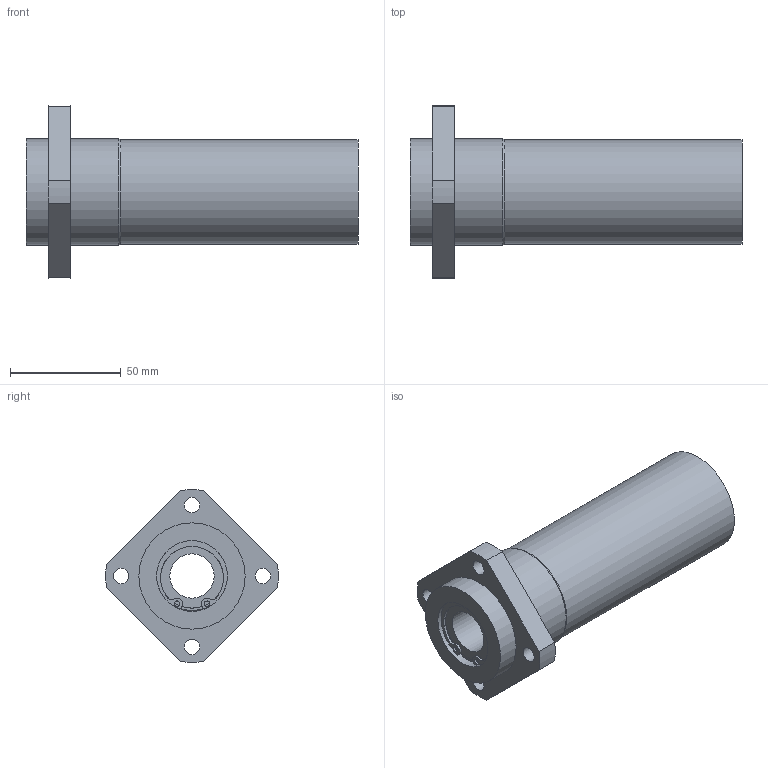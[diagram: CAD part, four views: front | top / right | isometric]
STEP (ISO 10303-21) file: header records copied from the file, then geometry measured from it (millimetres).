
FILE_DESCRIPTION((''),'2;1');
FILE_NAME('C:\Documents and Settings\土屋\My Documents\土屋移動用フォルダ\製品 (図面)\カタログ用3D\変換ファイル\OZAK_3D-CAD(STEP形式)\Part1.-Linear Bearings_ﾘﾆｱﾍﾞｱﾘﾝｸﾞ\09_Maintenance Free_ﾒｲﾝﾃﾅﾝｽﾌﾘｰ\L2017-09-22T13:59:10','2017-09-22T13:59:10',('y'),(''),'Autodesk Inventor 11','Autodesk Inventor 11','');
FILE_SCHEMA(('AUTOMOTIVE_DESIGN { 1 0 10303 214 1 1 1 1 }'));
Length unit declared in the file: millimetre
Products named in the file (1): LFWLB20AMF
Bounding box: 150 x 77.92 x 77.92 mm (x, y, z)
Volume: 230662.4 mm3; surface area: 44608.4 mm2
Topology: 1 solids, 7 shells, 97 faces, 229 edges, 144 vertices
Faces by surface type: bspline 34, cylinder 32, plane 28, torus 2, cone 1
Full cylindrical faces by diameter (mm): 2.5 x2, 7 x4, 20 x2, 29 x2, 30.3 x2, 32 x8, 47 x1, 48 x2
Entity records: 2809 total; most frequent: CARTESIAN_POINT 754, DIRECTION 432, ORIENTED_EDGE 352, AXIS2_PLACEMENT_3D 192, EDGE_CURVE 176, EDGE_LOOP 166, VERTEX_POINT 128, CIRCLE 128
